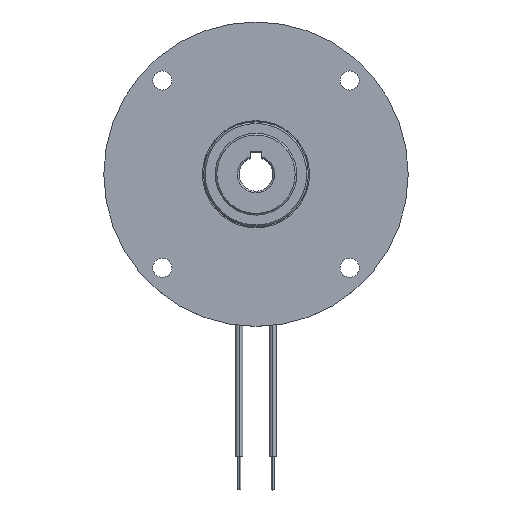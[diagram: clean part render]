
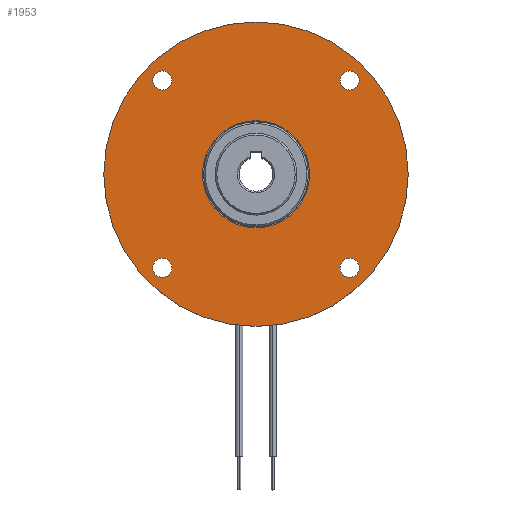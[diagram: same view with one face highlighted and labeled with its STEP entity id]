
A CAD part, top view. The second image highlights one B-rep face of the part: STEP entity #1953.
In plain terms, the highlighted planar face has unit normal (0, 0, 1).
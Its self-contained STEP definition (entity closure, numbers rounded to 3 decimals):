
#85 = CIRCLE ( 'NONE', #1002, 9.5 ) ;
#92 = ORIENTED_EDGE ( 'NONE', *, *, #1753, .T. ) ;
#95 = DIRECTION ( 'NONE',  ( 0., 0., -1. ) ) ;
#116 = CARTESIAN_POINT ( 'NONE',  ( 27., 0., 0. ) ) ;
#122 = VERTEX_POINT ( 'NONE', #4748 ) ;
#200 = CIRCLE ( 'NONE', #9553, 1.7 ) ;
#232 = DIRECTION ( 'NONE',  ( -1., 0., 0. ) ) ;
#378 = ORIENTED_EDGE ( 'NONE', *, *, #8998, .T. ) ;
#432 = DIRECTION ( 'NONE',  ( 0., 0., -1. ) ) ;
#845 = DIRECTION ( 'NONE',  ( 0., 0., -1. ) ) ;
#975 = EDGE_CURVE ( 'NONE', #2381, #6835, #2422, .T. ) ;
#1002 = AXIS2_PLACEMENT_3D ( 'NONE', #1687, #4728, #5474 ) ;
#1064 = AXIS2_PLACEMENT_3D ( 'NONE', #6042, #3705, #9246 ) ;
#1132 = EDGE_CURVE ( 'NONE', #3904, #4064, #5683, .T. ) ;
#1329 = CARTESIAN_POINT ( 'NONE',  ( 0., 27., 0. ) ) ;
#1447 = CIRCLE ( 'NONE', #1942, 1.7 ) ;
#1687 = CARTESIAN_POINT ( 'NONE',  ( 0., 0., 0. ) ) ;
#1753 = EDGE_CURVE ( 'NONE', #4284, #5494, #4328, .T. ) ;
#1798 = CARTESIAN_POINT ( 'NONE',  ( 18.317, -16.617, 0. ) ) ;
#1942 = AXIS2_PLACEMENT_3D ( 'NONE', #3958, #7006, #232 ) ;
#1953 = ADVANCED_FACE ( 'NONE', ( #4263, #4410, #8142, #3568, #8804, #7437 ), #6599, .F. ) ;
#2092 = CIRCLE ( 'NONE', #9413, 1.7 ) ;
#2114 = CARTESIAN_POINT ( 'NONE',  ( 0., 0., 0. ) ) ;
#2166 = DIRECTION ( 'NONE',  ( 0., 0., -1. ) ) ;
#2288 = DIRECTION ( 'NONE',  ( -1., 0., 0. ) ) ;
#2307 = CARTESIAN_POINT ( 'NONE',  ( 0., 0., 0. ) ) ;
#2381 = VERTEX_POINT ( 'NONE', #4167 ) ;
#2392 = ORIENTED_EDGE ( 'NONE', *, *, #4545, .T. ) ;
#2406 = EDGE_LOOP ( 'NONE', ( #3190, #378 ) ) ;
#2409 = DIRECTION ( 'NONE',  ( 0., 0., -1. ) ) ;
#2422 = CIRCLE ( 'NONE', #9754, 1.7 ) ;
#2553 = DIRECTION ( 'NONE',  ( -1., 0., 0. ) ) ;
#2583 = CARTESIAN_POINT ( 'NONE',  ( -18.317, 16.617, 0. ) ) ;
#2642 = CARTESIAN_POINT ( 'NONE',  ( -14.917, -16.617, 0. ) ) ;
#2722 = EDGE_CURVE ( 'NONE', #6556, #3335, #9366, .T. ) ;
#2780 = DIRECTION ( 'NONE',  ( -1., 0., 0. ) ) ;
#3093 = CARTESIAN_POINT ( 'NONE',  ( -18.317, -16.617, 0. ) ) ;
#3144 = ORIENTED_EDGE ( 'NONE', *, *, #1132, .T. ) ;
#3190 = ORIENTED_EDGE ( 'NONE', *, *, #4435, .T. ) ;
#3335 = VERTEX_POINT ( 'NONE', #7499 ) ;
#3563 = CIRCLE ( 'NONE', #6084, 1.7 ) ;
#3568 = FACE_BOUND ( 'NONE', #4227, .T. ) ;
#3663 = DIRECTION ( 'NONE',  ( -1., 0., 0. ) ) ;
#3696 = DIRECTION ( 'NONE',  ( 0., 0., -1. ) ) ;
#3705 = DIRECTION ( 'NONE',  ( 0., 0., -1. ) ) ;
#3904 = VERTEX_POINT ( 'NONE', #3093 ) ;
#3930 = ORIENTED_EDGE ( 'NONE', *, *, #9592, .F. ) ;
#3958 = CARTESIAN_POINT ( 'NONE',  ( -16.617, -16.617, 0. ) ) ;
#3980 = VERTEX_POINT ( 'NONE', #8028 ) ;
#4064 = VERTEX_POINT ( 'NONE', #2642 ) ;
#4167 = CARTESIAN_POINT ( 'NONE',  ( 18.317, 16.617, 0. ) ) ;
#4227 = EDGE_LOOP ( 'NONE', ( #7658, #92 ) ) ;
#4263 = FACE_BOUND ( 'NONE', #4568, .T. ) ;
#4284 = VERTEX_POINT ( 'NONE', #6473 ) ;
#4328 = CIRCLE ( 'NONE', #7387, 1.7 ) ;
#4393 = ORIENTED_EDGE ( 'NONE', *, *, #975, .T. ) ;
#4410 = FACE_BOUND ( 'NONE', #8846, .T. ) ;
#4435 = EDGE_CURVE ( 'NONE', #122, #4638, #8262, .T. ) ;
#4450 = EDGE_LOOP ( 'NONE', ( #3144, #2392 ) ) ;
#4545 = EDGE_CURVE ( 'NONE', #4064, #3904, #1447, .T. ) ;
#4568 = EDGE_LOOP ( 'NONE', ( #5528, #4393 ) ) ;
#4613 = DIRECTION ( 'NONE',  ( -1., 0., 0. ) ) ;
#4638 = VERTEX_POINT ( 'NONE', #9532 ) ;
#4728 = DIRECTION ( 'NONE',  ( 0., 0., -1. ) ) ;
#4748 = CARTESIAN_POINT ( 'NONE',  ( -9.5, 0., 0. ) ) ;
#4803 = EDGE_CURVE ( 'NONE', #5494, #4284, #2092, .T. ) ;
#4836 = CARTESIAN_POINT ( 'NONE',  ( 14.917, 16.617, 0. ) ) ;
#5019 = EDGE_LOOP ( 'NONE', ( #3930, #5360 ) ) ;
#5154 = DIRECTION ( 'NONE',  ( 0., 0., -1. ) ) ;
#5198 = CARTESIAN_POINT ( 'NONE',  ( 0., 0., 0. ) ) ;
#5228 = ORIENTED_EDGE ( 'NONE', *, *, #8003, .T. ) ;
#5257 = AXIS2_PLACEMENT_3D ( 'NONE', #2307, #5356, #4613 ) ;
#5267 = DIRECTION ( 'NONE',  ( -1., 0., 0. ) ) ;
#5309 = ORIENTED_EDGE ( 'NONE', *, *, #9648, .T. ) ;
#5350 = DIRECTION ( 'NONE',  ( -1., 0., 0. ) ) ;
#5356 = DIRECTION ( 'NONE',  ( 0., 0., -1. ) ) ;
#5360 = ORIENTED_EDGE ( 'NONE', *, *, #2722, .F. ) ;
#5410 = CARTESIAN_POINT ( 'NONE',  ( 16.617, -16.617, 0. ) ) ;
#5474 = DIRECTION ( 'NONE',  ( -1., 0., 0. ) ) ;
#5494 = VERTEX_POINT ( 'NONE', #2583 ) ;
#5528 = ORIENTED_EDGE ( 'NONE', *, *, #8615, .T. ) ;
#5683 = CIRCLE ( 'NONE', #1064, 1.7 ) ;
#6042 = CARTESIAN_POINT ( 'NONE',  ( -16.617, -16.617, 0. ) ) ;
#6084 = AXIS2_PLACEMENT_3D ( 'NONE', #6830, #3696, #2288 ) ;
#6085 = CIRCLE ( 'NONE', #8318, 1.7 ) ;
#6217 = DIRECTION ( 'NONE',  ( -1., 0., 0. ) ) ;
#6258 = AXIS2_PLACEMENT_3D ( 'NONE', #2114, #5154, #8176 ) ;
#6473 = CARTESIAN_POINT ( 'NONE',  ( -14.917, 16.617, 0. ) ) ;
#6556 = VERTEX_POINT ( 'NONE', #116 ) ;
#6581 = CIRCLE ( 'NONE', #6258, 27. ) ;
#6599 = PLANE ( 'NONE',  #7112 ) ;
#6780 = VERTEX_POINT ( 'NONE', #1798 ) ;
#6830 = CARTESIAN_POINT ( 'NONE',  ( 16.617, -16.617, 0. ) ) ;
#6835 = VERTEX_POINT ( 'NONE', #4836 ) ;
#6868 = CARTESIAN_POINT ( 'NONE',  ( -16.617, 16.617, 0. ) ) ;
#6942 = DIRECTION ( 'NONE',  ( 0., 0., -1. ) ) ;
#6976 = DIRECTION ( 'NONE',  ( 0., 0., -1. ) ) ;
#7006 = DIRECTION ( 'NONE',  ( 0., 0., -1. ) ) ;
#7112 = AXIS2_PLACEMENT_3D ( 'NONE', #1329, #2166, #3663 ) ;
#7204 = CARTESIAN_POINT ( 'NONE',  ( 16.617, 16.617, 0. ) ) ;
#7387 = AXIS2_PLACEMENT_3D ( 'NONE', #7645, #2409, #5267 ) ;
#7437 = FACE_BOUND ( 'NONE', #2406, .T. ) ;
#7499 = CARTESIAN_POINT ( 'NONE',  ( -27., 0., 0. ) ) ;
#7645 = CARTESIAN_POINT ( 'NONE',  ( -16.617, 16.617, 0. ) ) ;
#7658 = ORIENTED_EDGE ( 'NONE', *, *, #4803, .T. ) ;
#7665 = CARTESIAN_POINT ( 'NONE',  ( 16.617, 16.617, 0. ) ) ;
#8003 = EDGE_CURVE ( 'NONE', #6780, #3980, #200, .T. ) ;
#8028 = CARTESIAN_POINT ( 'NONE',  ( 14.917, -16.617, 0. ) ) ;
#8142 = FACE_BOUND ( 'NONE', #4450, .T. ) ;
#8176 = DIRECTION ( 'NONE',  ( -1., 0., 0. ) ) ;
#8262 = CIRCLE ( 'NONE', #5257, 9.5 ) ;
#8318 = AXIS2_PLACEMENT_3D ( 'NONE', #7665, #6976, #2553 ) ;
#8549 = AXIS2_PLACEMENT_3D ( 'NONE', #5198, #845, #6217 ) ;
#8615 = EDGE_CURVE ( 'NONE', #6835, #2381, #6085, .T. ) ;
#8804 = FACE_OUTER_BOUND ( 'NONE', #5019, .T. ) ;
#8846 = EDGE_LOOP ( 'NONE', ( #5309, #5228 ) ) ;
#8998 = EDGE_CURVE ( 'NONE', #4638, #122, #85, .T. ) ;
#9110 = DIRECTION ( 'NONE',  ( -1., 0., 0. ) ) ;
#9246 = DIRECTION ( 'NONE',  ( -1., 0., 0. ) ) ;
#9366 = CIRCLE ( 'NONE', #8549, 27. ) ;
#9413 = AXIS2_PLACEMENT_3D ( 'NONE', #6868, #95, #9110 ) ;
#9532 = CARTESIAN_POINT ( 'NONE',  ( 9.5, 0., 0. ) ) ;
#9553 = AXIS2_PLACEMENT_3D ( 'NONE', #5410, #6942, #5350 ) ;
#9592 = EDGE_CURVE ( 'NONE', #3335, #6556, #6581, .T. ) ;
#9648 = EDGE_CURVE ( 'NONE', #3980, #6780, #3563, .T. ) ;
#9754 = AXIS2_PLACEMENT_3D ( 'NONE', #7204, #432, #2780 ) ;
